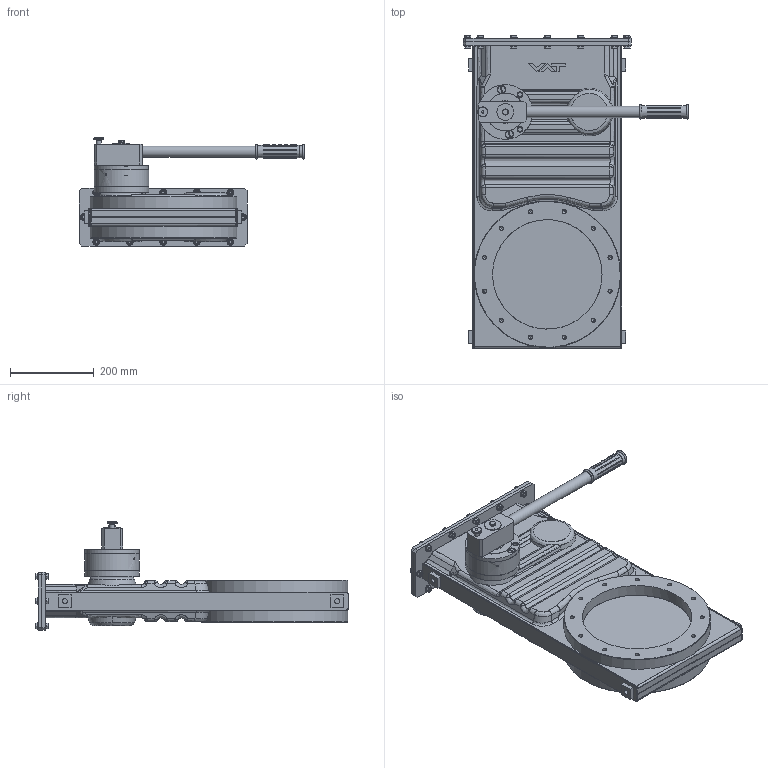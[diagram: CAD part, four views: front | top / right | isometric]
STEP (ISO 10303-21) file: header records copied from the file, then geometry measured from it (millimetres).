
FILE_DESCRIPTION((''),'2;1');
FILE_NAME('O:\MT\MT\Systeme\Cad\Datenexporte\www_vat_ch\232377.stp','2005-07-25T14:16:53',('User'),('SDRC'),'I-DEAS Master Series 9','UNIX','Yes');
FILE_SCHEMA(('CONFIG_CONTROL_DESIGN'));
Length unit declared in the file: millimetre
Assembly tree (81 placements, depth 0):
Bounding box: 537 x 746.4 x 258.27 mm (x, y, z)
Volume: 7330058.8 mm3; surface area: 3096844.1 mm2
Topology: 108 solids, 108 shells, 2057 faces, 4784 edges, 2944 vertices
Faces by surface type: bspline 2057
Entity records: 54851 total; most frequent: CARTESIAN_POINT 31747, ORIENTED_EDGE 5744, EDGE_CURVE 2872, VERTEX_POINT 1787, EDGE_LOOP 1391, B_SPLINE_CURVE_WITH_KNOTS 1388, FACE_OUTER_BOUND 1210, ADVANCED_FACE 1210
